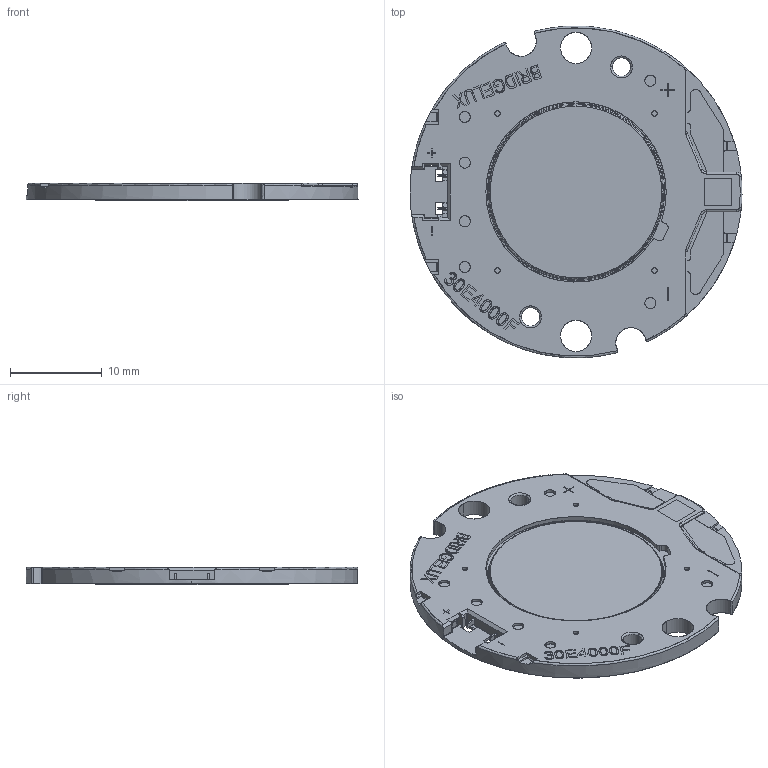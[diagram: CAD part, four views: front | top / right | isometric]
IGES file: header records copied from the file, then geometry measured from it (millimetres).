
Start section: SolidWorks IGES file using analytic representation for surfaces
Global section: file name: C:\Users\michaelsolomensky\Documents\MSdesign\Zhaga\Vero18 Zhaga.IGS; native system: SolidWorks 2013; preprocessor: SolidWorks 2013; author: michaelsolomensky; date: 140210.101132; units: millimetre
Bounding box: 36.2 x 36.19 x 1.9 mm (x, y, z)
Surface area: 3682.8 mm2 (no closed solid volume)
Topology: 0 solids, 0 shells, 931 faces, 8516 edges, 8507 vertices
Faces by surface type: bspline 649, revolution 282
